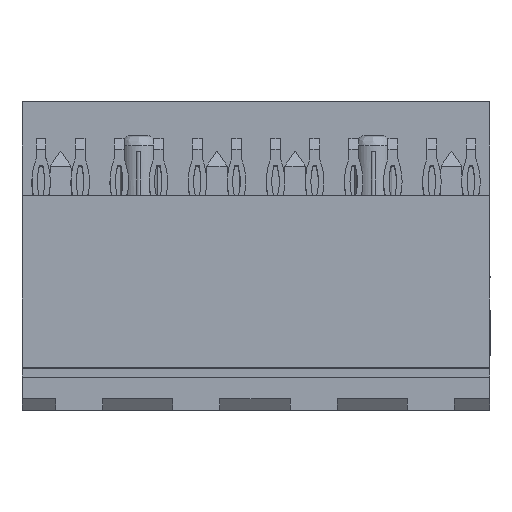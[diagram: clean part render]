
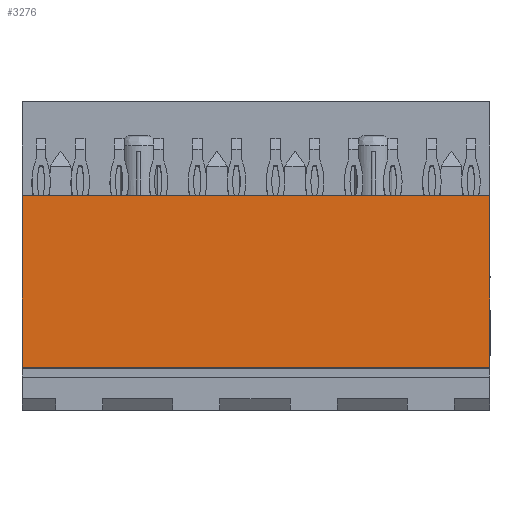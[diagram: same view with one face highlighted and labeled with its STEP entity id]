
A CAD part, front view. The second image highlights one B-rep face of the part: STEP entity #3276.
In plain terms, the highlighted planar face has unit normal (0, -1, 0) as drawn and (0, 1, 0) by its records, which use the part's own axes.
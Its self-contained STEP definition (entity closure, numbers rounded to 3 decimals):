
#1993 = VERTEX_POINT ( 'NONE', #7255 ) ;
#2601 = EDGE_CURVE ( 'NONE', #4495, #4548, #13425, .T. ) ;
#2624 = EDGE_CURVE ( 'NONE', #4519, #1993, #9960, .T. ) ;
#2644 = EDGE_CURVE ( 'NONE', #1993, #4548, #10166, .T. ) ;
#2676 = EDGE_CURVE ( 'NONE', #4519, #4495, #10388, .T. ) ;
#3276 = ADVANCED_FACE ( 'NONE', ( #6242 ), #6236, .T. ) ;
#4067 = ORIENTED_EDGE ( 'NONE', *, *, #2601, .F. ) ;
#4109 = ORIENTED_EDGE ( 'NONE', *, *, #2644, .T. ) ;
#4140 = ORIENTED_EDGE ( 'NONE', *, *, #2624, .T. ) ;
#4495 = VERTEX_POINT ( 'NONE', #6954 ) ;
#4519 = VERTEX_POINT ( 'NONE', #6957 ) ;
#4548 = VERTEX_POINT ( 'NONE', #6960 ) ;
#4654 = ORIENTED_EDGE ( 'NONE', *, *, #2676, .F. ) ;
#6236 = PLANE ( 'NONE',  #14857 ) ;
#6238 = CARTESIAN_POINT ( 'NONE',  ( 225.004, 120.069, -8.8 ) ) ;
#6242 = FACE_OUTER_BOUND ( 'NONE', #10076, .T. ) ;
#6244 = DIRECTION ( 'NONE',  ( 0., 1., 0. ) ) ;
#6245 = DIRECTION ( 'NONE',  ( 0., 0., 1. ) ) ;
#6954 = CARTESIAN_POINT ( 'NONE',  ( 225.004, 120.069, -8.8 ) ) ;
#6957 = CARTESIAN_POINT ( 'NONE',  ( 201.054, 120.069, -8.8 ) ) ;
#6960 = CARTESIAN_POINT ( 'NONE',  ( 225.004, 120.069, 0. ) ) ;
#7255 = CARTESIAN_POINT ( 'NONE',  ( 201.054, 120.069, 0. ) ) ;
#8327 = VECTOR ( 'NONE', #10390, 1000. ) ;
#8411 = VECTOR ( 'NONE', #9992, 1000. ) ;
#8432 = VECTOR ( 'NONE', #10173, 1000. ) ;
#8589 = VECTOR ( 'NONE', #13423, 1000. ) ;
#9960 = LINE ( 'NONE', #9988, #8411 ) ;
#9988 = CARTESIAN_POINT ( 'NONE',  ( 201.054, 120.069, -8.8 ) ) ;
#9992 = DIRECTION ( 'NONE',  ( 0., 0., 1. ) ) ;
#10076 = EDGE_LOOP ( 'NONE', ( #4654, #4140, #4109, #4067 ) ) ;
#10166 = LINE ( 'NONE', #10170, #8432 ) ;
#10170 = CARTESIAN_POINT ( 'NONE',  ( 225.004, 120.069, 0. ) ) ;
#10173 = DIRECTION ( 'NONE',  ( 1., 0., 0. ) ) ;
#10388 = LINE ( 'NONE', #10389, #8327 ) ;
#10389 = CARTESIAN_POINT ( 'NONE',  ( 225.004, 120.069, -8.8 ) ) ;
#10390 = DIRECTION ( 'NONE',  ( 1., 0., 0. ) ) ;
#13423 = DIRECTION ( 'NONE',  ( 0., 0., 1. ) ) ;
#13424 = CARTESIAN_POINT ( 'NONE',  ( 225.004, 120.069, -8.8 ) ) ;
#13425 = LINE ( 'NONE', #13424, #8589 ) ;
#14857 = AXIS2_PLACEMENT_3D ( 'NONE', #6238, #6244, #6245 ) ;
